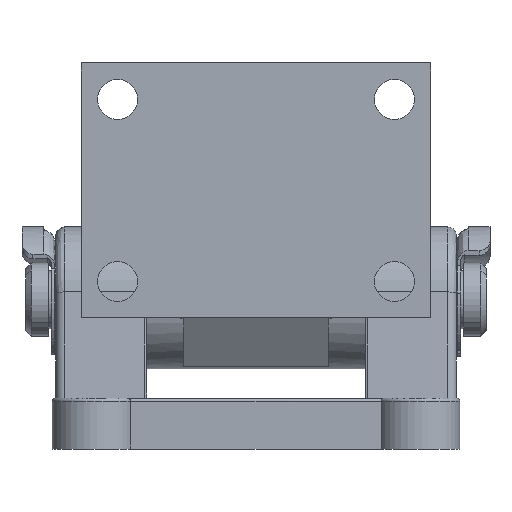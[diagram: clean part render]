
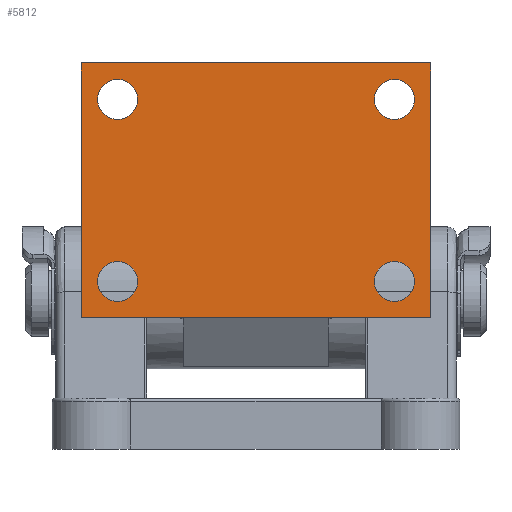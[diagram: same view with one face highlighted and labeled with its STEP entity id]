
A CAD part, front view. The second image highlights one B-rep face of the part: STEP entity #5812.
In plain terms, the highlighted planar face has unit normal (0, -1, 0) as drawn and (0, 0, -1) by its records, which use the part's own axes.
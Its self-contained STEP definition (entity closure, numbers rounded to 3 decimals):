
#114 = CARTESIAN_POINT ( 'NONE',  ( 15.5, 10., 0. ) ) ;
#232 = ORIENTED_EDGE ( 'NONE', *, *, #1521, .T. ) ;
#271 = DIRECTION ( 'NONE',  ( 0., 0., 1. ) ) ;
#298 = CARTESIAN_POINT ( 'NONE',  ( 65.5, 86., 0. ) ) ;
#299 = VERTEX_POINT ( 'NONE', #6443 ) ;
#326 = CARTESIAN_POINT ( 'NONE',  ( 60., 86., 0. ) ) ;
#354 = LINE ( 'NONE', #7133, #7077 ) ;
#366 = DIRECTION ( 'NONE',  ( 0., 0., 1. ) ) ;
#402 = LINE ( 'NONE', #2524, #6941 ) ;
#525 = EDGE_CURVE ( 'NONE', #1349, #3672, #1581, .T. ) ;
#567 = ORIENTED_EDGE ( 'NONE', *, *, #4691, .T. ) ;
#831 = AXIS2_PLACEMENT_3D ( 'NONE', #7061, #366, #3865 ) ;
#914 = CARTESIAN_POINT ( 'NONE',  ( 0., 96., 0. ) ) ;
#947 = DIRECTION ( 'NONE',  ( 0., 0., 1. ) ) ;
#1010 = LINE ( 'NONE', #7355, #4006 ) ;
#1170 = DIRECTION ( 'NONE',  ( -1., 0., 0. ) ) ;
#1205 = AXIS2_PLACEMENT_3D ( 'NONE', #1631, #5866, #5193 ) ;
#1242 = PLANE ( 'NONE',  #6823 ) ;
#1330 = CIRCLE ( 'NONE', #5509, 5.5 ) ;
#1349 = VERTEX_POINT ( 'NONE', #3963 ) ;
#1382 = CARTESIAN_POINT ( 'NONE',  ( 0., 0., 0. ) ) ;
#1458 = DIRECTION ( 'NONE',  ( 0., 0., 1. ) ) ;
#1521 = EDGE_CURVE ( 'NONE', #299, #2178, #1010, .T. ) ;
#1530 = DIRECTION ( 'NONE',  ( 0., 0., -1. ) ) ;
#1571 = ORIENTED_EDGE ( 'NONE', *, *, #5204, .T. ) ;
#1581 = CIRCLE ( 'NONE', #6018, 5.5 ) ;
#1592 = VECTOR ( 'NONE', #3995, 1000. ) ;
#1631 = CARTESIAN_POINT ( 'NONE',  ( 60., 10., 0. ) ) ;
#1674 = VERTEX_POINT ( 'NONE', #5025 ) ;
#1679 = CARTESIAN_POINT ( 'NONE',  ( 15.5, 86., 0. ) ) ;
#1761 = EDGE_LOOP ( 'NONE', ( #2218, #1571 ) ) ;
#1785 = CIRCLE ( 'NONE', #3945, 5.5 ) ;
#1812 = FACE_BOUND ( 'NONE', #5369, .T. ) ;
#1978 = FACE_BOUND ( 'NONE', #6389, .T. ) ;
#2033 = CARTESIAN_POINT ( 'NONE',  ( 60., 10., 0. ) ) ;
#2061 = EDGE_CURVE ( 'NONE', #7378, #5615, #402, .T. ) ;
#2178 = VERTEX_POINT ( 'NONE', #1382 ) ;
#2218 = ORIENTED_EDGE ( 'NONE', *, *, #4147, .T. ) ;
#2243 = ORIENTED_EDGE ( 'NONE', *, *, #3985, .T. ) ;
#2281 = ORIENTED_EDGE ( 'NONE', *, *, #5217, .T. ) ;
#2339 = DIRECTION ( 'NONE',  ( 0., 0., 1. ) ) ;
#2472 = DIRECTION ( 'NONE',  ( 1., 0., 0. ) ) ;
#2524 = CARTESIAN_POINT ( 'NONE',  ( 0., 96., 0. ) ) ;
#2632 = AXIS2_PLACEMENT_3D ( 'NONE', #2694, #7543, #6406 ) ;
#2649 = ORIENTED_EDGE ( 'NONE', *, *, #6300, .T. ) ;
#2694 = CARTESIAN_POINT ( 'NONE',  ( 10., 10., 0. ) ) ;
#2760 = CIRCLE ( 'NONE', #2632, 5.5 ) ;
#2956 = CIRCLE ( 'NONE', #7396, 5.5 ) ;
#3122 = AXIS2_PLACEMENT_3D ( 'NONE', #326, #947, #6906 ) ;
#3192 = EDGE_LOOP ( 'NONE', ( #567, #232, #2649, #4292 ) ) ;
#3330 = ORIENTED_EDGE ( 'NONE', *, *, #5539, .T. ) ;
#3347 = DIRECTION ( 'NONE',  ( 1., 0., 0. ) ) ;
#3367 = EDGE_CURVE ( 'NONE', #4223, #7585, #1785, .T. ) ;
#3482 = CARTESIAN_POINT ( 'NONE',  ( 4.5, 86., 0. ) ) ;
#3611 = CIRCLE ( 'NONE', #3122, 5.5 ) ;
#3672 = VERTEX_POINT ( 'NONE', #298 ) ;
#3791 = FACE_OUTER_BOUND ( 'NONE', #3192, .T. ) ;
#3865 = DIRECTION ( 'NONE',  ( 1., 0., 0. ) ) ;
#3894 = DIRECTION ( 'NONE',  ( 1., 0., 0. ) ) ;
#3927 = DIRECTION ( 'NONE',  ( 1., 0., 0. ) ) ;
#3945 = AXIS2_PLACEMENT_3D ( 'NONE', #6265, #1458, #3894 ) ;
#3951 = DIRECTION ( 'NONE',  ( -1., 0., 0. ) ) ;
#3963 = CARTESIAN_POINT ( 'NONE',  ( 54.5, 86., 0. ) ) ;
#3985 = EDGE_CURVE ( 'NONE', #7585, #4223, #4502, .T. ) ;
#3995 = DIRECTION ( 'NONE',  ( 0., 1., 0. ) ) ;
#4006 = VECTOR ( 'NONE', #1170, 1000. ) ;
#4015 = VERTEX_POINT ( 'NONE', #5206 ) ;
#4147 = EDGE_CURVE ( 'NONE', #4972, #4015, #2760, .T. ) ;
#4223 = VERTEX_POINT ( 'NONE', #1679 ) ;
#4232 = FACE_BOUND ( 'NONE', #1761, .T. ) ;
#4286 = CARTESIAN_POINT ( 'NONE',  ( 70., 96., 0. ) ) ;
#4292 = ORIENTED_EDGE ( 'NONE', *, *, #2061, .T. ) ;
#4502 = CIRCLE ( 'NONE', #831, 5.5 ) ;
#4691 = EDGE_CURVE ( 'NONE', #5615, #299, #354, .T. ) ;
#4934 = ORIENTED_EDGE ( 'NONE', *, *, #525, .T. ) ;
#4972 = VERTEX_POINT ( 'NONE', #114 ) ;
#5025 = CARTESIAN_POINT ( 'NONE',  ( 54.5, 10., 0. ) ) ;
#5062 = ORIENTED_EDGE ( 'NONE', *, *, #3367, .T. ) ;
#5075 = EDGE_LOOP ( 'NONE', ( #5062, #2243 ) ) ;
#5082 = DIRECTION ( 'NONE',  ( 0., 0., 1. ) ) ;
#5144 = LINE ( 'NONE', #7597, #1592 ) ;
#5193 = DIRECTION ( 'NONE',  ( 1., 0., 0. ) ) ;
#5204 = EDGE_CURVE ( 'NONE', #4015, #4972, #1330, .T. ) ;
#5206 = CARTESIAN_POINT ( 'NONE',  ( 4.5, 10., 0. ) ) ;
#5217 = EDGE_CURVE ( 'NONE', #3672, #1349, #3611, .T. ) ;
#5257 = CIRCLE ( 'NONE', #1205, 5.5 ) ;
#5336 = CARTESIAN_POINT ( 'NONE',  ( 60., 86., 0. ) ) ;
#5369 = EDGE_LOOP ( 'NONE', ( #2281, #4934 ) ) ;
#5509 = AXIS2_PLACEMENT_3D ( 'NONE', #6867, #5082, #3347 ) ;
#5539 = EDGE_CURVE ( 'NONE', #7163, #1674, #5257, .T. ) ;
#5615 = VERTEX_POINT ( 'NONE', #4286 ) ;
#5735 = ORIENTED_EDGE ( 'NONE', *, *, #6636, .T. ) ;
#5812 = ADVANCED_FACE ( 'NONE', ( #1978, #4232, #3791, #6218, #1812 ), #1242, .T. ) ;
#5866 = DIRECTION ( 'NONE',  ( 0., 0., 1. ) ) ;
#6018 = AXIS2_PLACEMENT_3D ( 'NONE', #5336, #2339, #6632 ) ;
#6218 = FACE_BOUND ( 'NONE', #5075, .T. ) ;
#6265 = CARTESIAN_POINT ( 'NONE',  ( 10., 86., 0. ) ) ;
#6300 = EDGE_CURVE ( 'NONE', #2178, #7378, #5144, .T. ) ;
#6389 = EDGE_LOOP ( 'NONE', ( #3330, #5735 ) ) ;
#6406 = DIRECTION ( 'NONE',  ( 1., 0., 0. ) ) ;
#6443 = CARTESIAN_POINT ( 'NONE',  ( 70., 0., 0. ) ) ;
#6466 = CARTESIAN_POINT ( 'NONE',  ( 0., 96., 0. ) ) ;
#6475 = DIRECTION ( 'NONE',  ( 0., -1., 0. ) ) ;
#6632 = DIRECTION ( 'NONE',  ( 1., 0., 0. ) ) ;
#6636 = EDGE_CURVE ( 'NONE', #1674, #7163, #2956, .T. ) ;
#6823 = AXIS2_PLACEMENT_3D ( 'NONE', #914, #1530, #3951 ) ;
#6867 = CARTESIAN_POINT ( 'NONE',  ( 10., 10., 0. ) ) ;
#6906 = DIRECTION ( 'NONE',  ( 1., 0., 0. ) ) ;
#6941 = VECTOR ( 'NONE', #2472, 1000. ) ;
#7061 = CARTESIAN_POINT ( 'NONE',  ( 10., 86., 0. ) ) ;
#7077 = VECTOR ( 'NONE', #6475, 1000. ) ;
#7094 = CARTESIAN_POINT ( 'NONE',  ( 65.5, 10., 0. ) ) ;
#7133 = CARTESIAN_POINT ( 'NONE',  ( 70., 96., 0. ) ) ;
#7163 = VERTEX_POINT ( 'NONE', #7094 ) ;
#7355 = CARTESIAN_POINT ( 'NONE',  ( 0., 0., 0. ) ) ;
#7378 = VERTEX_POINT ( 'NONE', #6466 ) ;
#7396 = AXIS2_PLACEMENT_3D ( 'NONE', #2033, #271, #3927 ) ;
#7543 = DIRECTION ( 'NONE',  ( 0., 0., 1. ) ) ;
#7585 = VERTEX_POINT ( 'NONE', #3482 ) ;
#7597 = CARTESIAN_POINT ( 'NONE',  ( 0., 96., 0. ) ) ;
